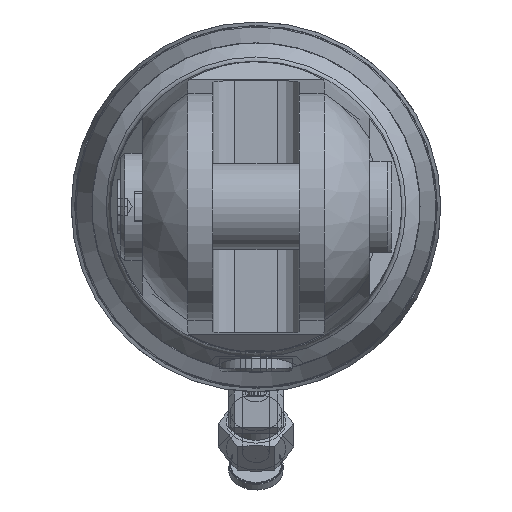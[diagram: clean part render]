
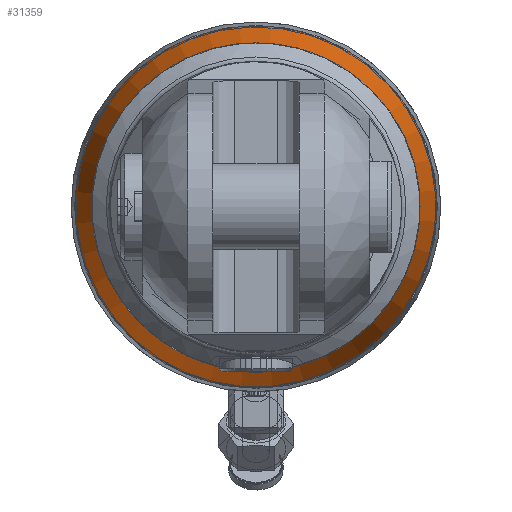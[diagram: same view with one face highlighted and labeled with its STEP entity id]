
A CAD part, left-side view. The second image highlights one B-rep face of the part: STEP entity #31359.
In plain terms, the highlighted conical face has half-angle 15.849 degrees and reference radius 63.694 mm.
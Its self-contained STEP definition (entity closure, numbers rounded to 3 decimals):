
#630=CONICAL_SURFACE('',#33271,63.694,0.277);
#4955=FACE_OUTER_BOUND('',#6682,.T.);
#6682=EDGE_LOOP('',(#23072,#23073,#23074,#23075,#23076,#23077));
#8485=CIRCLE('',#33268,60.637);
#8486=CIRCLE('',#33269,60.637);
#8488=CIRCLE('',#33272,66.751);
#8489=CIRCLE('',#33273,66.751);
#8967=LINE('',#42311,#11861);
#11861=VECTOR('',#35470,63.694);
#14839=VERTEX_POINT('',#42303);
#14840=VERTEX_POINT('',#42305);
#14841=VERTEX_POINT('',#42310);
#14842=VERTEX_POINT('',#42312);
#18025=EDGE_CURVE('',#14839,#14840,#8485,.T.);
#18026=EDGE_CURVE('',#14840,#14839,#8486,.T.);
#18028=EDGE_CURVE('',#14840,#14841,#8967,.T.);
#18029=EDGE_CURVE('',#14842,#14841,#8488,.T.);
#18030=EDGE_CURVE('',#14841,#14842,#8489,.T.);
#23072=ORIENTED_EDGE('',*,*,#18025,.F.);
#23073=ORIENTED_EDGE('',*,*,#18026,.F.);
#23074=ORIENTED_EDGE('',*,*,#18028,.T.);
#23075=ORIENTED_EDGE('',*,*,#18029,.F.);
#23076=ORIENTED_EDGE('',*,*,#18030,.F.);
#23077=ORIENTED_EDGE('',*,*,#18028,.F.);
#31359=ADVANCED_FACE('',(#4955),#630,.T.);
#33268=AXIS2_PLACEMENT_3D('',#42306,#35462,#35463);
#33269=AXIS2_PLACEMENT_3D('',#42307,#35464,#35465);
#33271=AXIS2_PLACEMENT_3D('',#42309,#35468,#35469);
#33272=AXIS2_PLACEMENT_3D('',#42313,#35471,#35472);
#33273=AXIS2_PLACEMENT_3D('',#42314,#35473,#35474);
#35462=DIRECTION('center_axis',(-1.,0.,0.));
#35463=DIRECTION('ref_axis',(0.,0.091,0.996));
#35464=DIRECTION('center_axis',(-1.,0.,0.));
#35465=DIRECTION('ref_axis',(0.,0.091,0.996));
#35468=DIRECTION('center_axis',(1.,0.,0.));
#35469=DIRECTION('ref_axis',(0.,-0.091,-0.996));
#35470=DIRECTION('',(0.962,0.025,0.272));
#35471=DIRECTION('center_axis',(1.,0.,0.));
#35472=DIRECTION('ref_axis',(0.,0.091,0.996));
#35473=DIRECTION('center_axis',(1.,0.,0.));
#35474=DIRECTION('ref_axis',(0.,0.091,0.996));
#42303=CARTESIAN_POINT('',(-22.019,-5.543,-60.383));
#42305=CARTESIAN_POINT('',(-22.019,5.543,60.383));
#42306=CARTESIAN_POINT('Origin',(-22.019,0.,
0.));
#42307=CARTESIAN_POINT('Origin',(-22.019,0.,
0.));
#42309=CARTESIAN_POINT('Origin',(-11.25,0.,0.));
#42310=CARTESIAN_POINT('',(-0.481,6.102,66.471));
#42311=CARTESIAN_POINT('',(-11.25,5.822,63.427));
#42312=CARTESIAN_POINT('',(-0.481,-6.102,-66.471));
#42313=CARTESIAN_POINT('Origin',(-0.481,0.,
0.));
#42314=CARTESIAN_POINT('Origin',(-0.481,0.,
0.));
